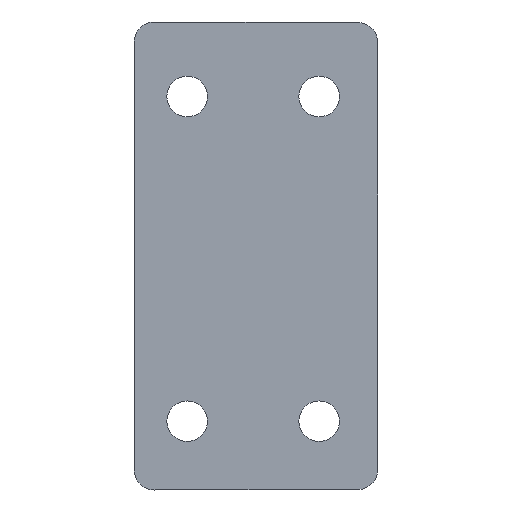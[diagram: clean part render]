
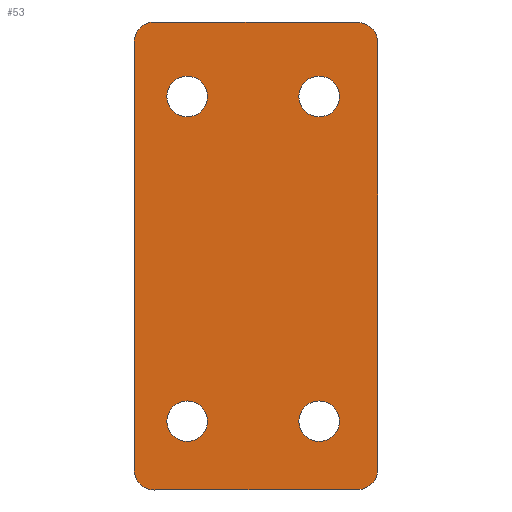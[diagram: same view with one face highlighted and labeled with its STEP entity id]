
A CAD part, left-side view. The second image highlights one B-rep face of the part: STEP entity #53.
In plain terms, the highlighted planar face has unit normal (-1, 0, 0).
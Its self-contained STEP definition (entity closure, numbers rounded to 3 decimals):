
#53=ADVANCED_FACE('',(#67,#69,#71,#73,#75),#77,.F.);
#67=FACE_BOUND('',#68,.T.);
#68=EDGE_LOOP('',(#189,#190,#191,#192,#193,#194,#195,#196));
#69=FACE_BOUND('',#70,.T.);
#70=EDGE_LOOP('',(#197));
#71=FACE_BOUND('',#72,.T.);
#72=EDGE_LOOP('',(#198));
#73=FACE_BOUND('',#74,.T.);
#74=EDGE_LOOP('',(#199));
#75=FACE_BOUND('',#76,.T.);
#76=EDGE_LOOP('',(#200));
#77=PLANE('',#78);
#78=AXIS2_PLACEMENT_3D('',#79,#80,#81);
#79=CARTESIAN_POINT('',(0.,0.,0.));
#80=DIRECTION('',(1.,0.,0.));
#81=DIRECTION('',(0.,0.,-1.));
#189=ORIENTED_EDGE('',*,*,#253,.F.);
#190=ORIENTED_EDGE('',*,*,#254,.F.);
#191=ORIENTED_EDGE('',*,*,#255,.F.);
#192=ORIENTED_EDGE('',*,*,#256,.F.);
#193=ORIENTED_EDGE('',*,*,#257,.F.);
#194=ORIENTED_EDGE('',*,*,#258,.F.);
#195=ORIENTED_EDGE('',*,*,#259,.F.);
#196=ORIENTED_EDGE('',*,*,#260,.F.);
#197=ORIENTED_EDGE('',*,*,#261,.T.);
#198=ORIENTED_EDGE('',*,*,#262,.T.);
#199=ORIENTED_EDGE('',*,*,#263,.T.);
#200=ORIENTED_EDGE('',*,*,#264,.T.);
#253=EDGE_CURVE('',#285,#286,#287,.T.);
#254=EDGE_CURVE('',#288,#285,#289,.T.);
#255=EDGE_CURVE('',#290,#288,#291,.T.);
#256=EDGE_CURVE('',#292,#290,#293,.T.);
#257=EDGE_CURVE('',#294,#292,#295,.T.);
#258=EDGE_CURVE('',#296,#294,#297,.T.);
#259=EDGE_CURVE('',#298,#296,#299,.T.);
#260=EDGE_CURVE('',#286,#298,#300,.T.);
#261=EDGE_CURVE('',#301,#301,#302,.T.);
#262=EDGE_CURVE('',#303,#303,#304,.T.);
#263=EDGE_CURVE('',#305,#305,#306,.T.);
#264=EDGE_CURVE('',#307,#307,#308,.T.);
#285=VERTEX_POINT('',#341);
#286=VERTEX_POINT('',#342);
#287=CIRCLE('',#343,10.);
#288=VERTEX_POINT('',#347);
#289=LINE('',#348,#349);
#290=VERTEX_POINT('',#351);
#291=CIRCLE('',#352,10.);
#292=VERTEX_POINT('',#356);
#293=LINE('',#357,#358);
#294=VERTEX_POINT('',#360);
#295=CIRCLE('',#361,10.);
#296=VERTEX_POINT('',#365);
#297=LINE('',#366,#367);
#298=VERTEX_POINT('',#369);
#299=CIRCLE('',#370,10.);
#300=LINE('',#374,#375);
#301=VERTEX_POINT('',#377);
#302=CIRCLE('',#378,10.);
#303=VERTEX_POINT('',#382);
#304=CIRCLE('',#383,10.);
#305=VERTEX_POINT('',#387);
#306=CIRCLE('',#388,10.);
#307=VERTEX_POINT('',#392);
#308=CIRCLE('',#393,10.);
#341=CARTESIAN_POINT('',(0.,49.983,-115.289));
#342=CARTESIAN_POINT('',(0.,60.,-105.289));
#343=AXIS2_PLACEMENT_3D('',#344,#345,#346);
#344=CARTESIAN_POINT('',(0.,50.,-105.289));
#345=DIRECTION('',(1.,0.,0.));
#346=DIRECTION('',(0.,-0.002,-1.));
#347=CARTESIAN_POINT('',(0.,-50.017,-115.115));
#348=CARTESIAN_POINT('',(0.,-50.017,-115.115));
#349=VECTOR('',#350,1.);
#350=DIRECTION('',(0.,1.,-0.002));
#351=CARTESIAN_POINT('',(0.,-60.,-105.115));
#352=AXIS2_PLACEMENT_3D('',#353,#354,#355);
#353=CARTESIAN_POINT('',(0.,-50.,-105.115));
#354=DIRECTION('',(1.,0.,0.));
#355=DIRECTION('',(0.,-1.,0.));
#356=CARTESIAN_POINT('',(0.,-60.,105.067));
#357=CARTESIAN_POINT('',(0.,-60.,105.067));
#358=VECTOR('',#359,1.);
#359=DIRECTION('',(0.,0.,-1.));
#360=CARTESIAN_POINT('',(0.,-50.025,115.067));
#361=AXIS2_PLACEMENT_3D('',#362,#363,#364);
#362=CARTESIAN_POINT('',(0.,-50.,105.067));
#363=DIRECTION('',(1.,0.,0.));
#364=DIRECTION('',(0.,-0.003,1.));
#365=CARTESIAN_POINT('',(0.,49.975,115.319));
#366=CARTESIAN_POINT('',(0.,49.975,115.319));
#367=VECTOR('',#368,1.);
#368=DIRECTION('',(0.,-1.,-0.003));
#369=CARTESIAN_POINT('',(0.,60.,105.319));
#370=AXIS2_PLACEMENT_3D('',#371,#372,#373);
#371=CARTESIAN_POINT('',(0.,50.,105.319));
#372=DIRECTION('',(1.,0.,0.));
#373=DIRECTION('',(0.,1.,0.));
#374=CARTESIAN_POINT('',(0.,60.,-105.289));
#375=VECTOR('',#376,1.);
#376=DIRECTION('',(0.,0.,1.));
#377=CARTESIAN_POINT('',(0.,33.906,68.604));
#378=AXIS2_PLACEMENT_3D('',#379,#380,#381);
#379=CARTESIAN_POINT('',(0.,33.906,78.604));
#380=DIRECTION('',(1.,0.,0.));
#381=DIRECTION('',(0.,0.,-1.));
#382=CARTESIAN_POINT('',(0.,-31.094,68.604));
#383=AXIS2_PLACEMENT_3D('',#384,#385,#386);
#384=CARTESIAN_POINT('',(0.,-31.094,78.604));
#385=DIRECTION('',(1.,0.,0.));
#386=DIRECTION('',(0.,0.,-1.));
#387=CARTESIAN_POINT('',(0.,-31.094,-91.396));
#388=AXIS2_PLACEMENT_3D('',#389,#390,#391);
#389=CARTESIAN_POINT('',(0.,-31.094,-81.396));
#390=DIRECTION('',(1.,0.,0.));
#391=DIRECTION('',(0.,0.,-1.));
#392=CARTESIAN_POINT('',(0.,33.906,-91.396));
#393=AXIS2_PLACEMENT_3D('',#394,#395,#396);
#394=CARTESIAN_POINT('',(0.,33.906,-81.396));
#395=DIRECTION('',(1.,0.,0.));
#396=DIRECTION('',(0.,0.,-1.));
